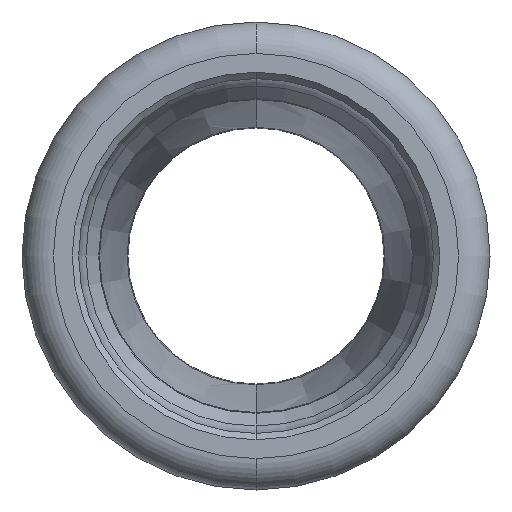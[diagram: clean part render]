
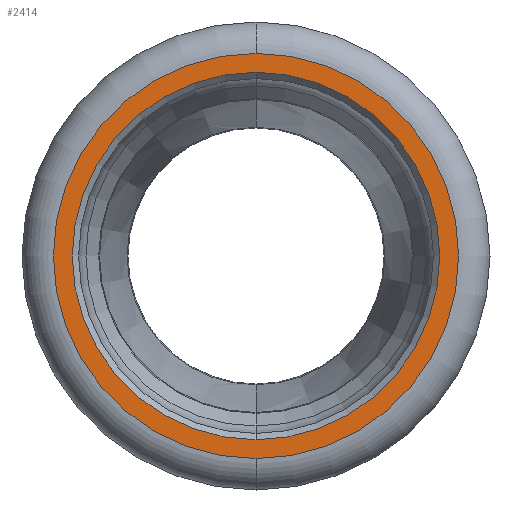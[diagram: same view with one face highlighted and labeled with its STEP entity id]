
A CAD part, left-side view. The second image highlights one B-rep face of the part: STEP entity #2414.
In plain terms, the highlighted planar face has unit normal (-1, 0, 0).
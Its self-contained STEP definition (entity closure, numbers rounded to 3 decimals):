
#15 = CIRCLE ( 'NONE', #1388, 14.6 ) ;
#81 = CIRCLE ( 'NONE', #1300, 16.1 ) ;
#88 = CARTESIAN_POINT ( 'NONE',  ( -33.465, 0., 0. ) ) ;
#177 = DIRECTION ( 'NONE',  ( -1., 0., 0. ) ) ;
#243 = CARTESIAN_POINT ( 'NONE',  ( -33.465, 0., 14.6 ) ) ;
#247 = CARTESIAN_POINT ( 'NONE',  ( -33.465, 0., -16.1 ) ) ;
#546 = CIRCLE ( 'NONE', #2698, 16.1 ) ;
#593 = FACE_OUTER_BOUND ( 'NONE', #2785, .T. ) ;
#629 = DIRECTION ( 'NONE',  ( 0., 0., 1. ) ) ;
#654 = DIRECTION ( 'NONE',  ( -1., 0., 0. ) ) ;
#775 = EDGE_CURVE ( 'NONE', #1332, #2149, #81, .T. ) ;
#799 = DIRECTION ( 'NONE',  ( 0., 0., 1. ) ) ;
#920 = VERTEX_POINT ( 'NONE', #243 ) ;
#1034 = DIRECTION ( 'NONE',  ( -1., 0., 0. ) ) ;
#1098 = ORIENTED_EDGE ( 'NONE', *, *, #1137, .T. ) ;
#1123 = EDGE_LOOP ( 'NONE', ( #2758, #2022 ) ) ;
#1137 = EDGE_CURVE ( 'NONE', #2149, #1332, #546, .T. ) ;
#1148 = CARTESIAN_POINT ( 'NONE',  ( -33.465, 0., 0. ) ) ;
#1300 = AXIS2_PLACEMENT_3D ( 'NONE', #2013, #177, #2238 ) ;
#1328 = CARTESIAN_POINT ( 'NONE',  ( -33.465, 0., -14.6 ) ) ;
#1332 = VERTEX_POINT ( 'NONE', #2214 ) ;
#1388 = AXIS2_PLACEMENT_3D ( 'NONE', #1656, #2109, #2583 ) ;
#1409 = VERTEX_POINT ( 'NONE', #1328 ) ;
#1442 = AXIS2_PLACEMENT_3D ( 'NONE', #2739, #2293, #629 ) ;
#1540 = CIRCLE ( 'NONE', #2812, 14.6 ) ;
#1656 = CARTESIAN_POINT ( 'NONE',  ( -33.465, 0., 0. ) ) ;
#1825 = PLANE ( 'NONE',  #1442 ) ;
#1834 = ORIENTED_EDGE ( 'NONE', *, *, #775, .T. ) ;
#1878 = EDGE_CURVE ( 'NONE', #920, #1409, #1540, .T. ) ;
#1929 = EDGE_CURVE ( 'NONE', #1409, #920, #15, .T. ) ;
#2013 = CARTESIAN_POINT ( 'NONE',  ( -33.465, 0., 0. ) ) ;
#2022 = ORIENTED_EDGE ( 'NONE', *, *, #1929, .F. ) ;
#2074 = DIRECTION ( 'NONE',  ( 0., 0., 1. ) ) ;
#2109 = DIRECTION ( 'NONE',  ( -1., 0., 0. ) ) ;
#2149 = VERTEX_POINT ( 'NONE', #247 ) ;
#2214 = CARTESIAN_POINT ( 'NONE',  ( -33.465, 0., 16.1 ) ) ;
#2238 = DIRECTION ( 'NONE',  ( 0., 0., 1. ) ) ;
#2293 = DIRECTION ( 'NONE',  ( -1., 0., 0. ) ) ;
#2414 = ADVANCED_FACE ( 'NONE', ( #593, #2485 ), #1825, .T. ) ;
#2485 = FACE_BOUND ( 'NONE', #1123, .T. ) ;
#2583 = DIRECTION ( 'NONE',  ( 0., 0., 1. ) ) ;
#2698 = AXIS2_PLACEMENT_3D ( 'NONE', #1148, #654, #2074 ) ;
#2739 = CARTESIAN_POINT ( 'NONE',  ( -33.465, -16.1, 0. ) ) ;
#2758 = ORIENTED_EDGE ( 'NONE', *, *, #1878, .F. ) ;
#2785 = EDGE_LOOP ( 'NONE', ( #1834, #1098 ) ) ;
#2812 = AXIS2_PLACEMENT_3D ( 'NONE', #88, #1034, #799 ) ;
